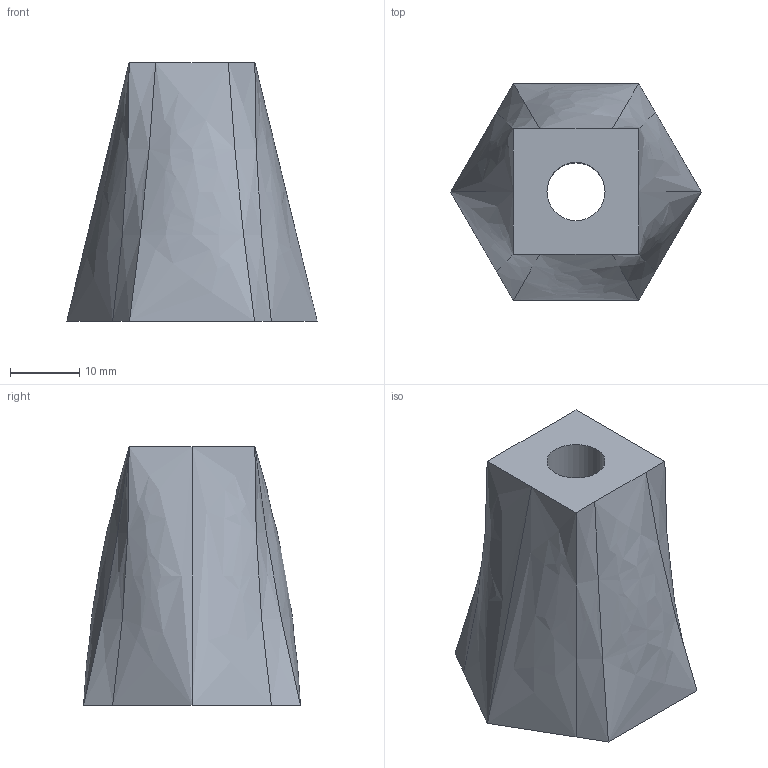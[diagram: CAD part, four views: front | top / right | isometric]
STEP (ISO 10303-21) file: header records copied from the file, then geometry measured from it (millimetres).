
FILE_DESCRIPTION(('Mechanical CAD reference from nasji.com'),'2;1');
FILE_NAME('NASJI.step','',(''),(''),'','NASJI distribution','');
FILE_SCHEMA(('AUTOMOTIVE_DESIGN { 1 0 10303 214 1 1 1 1 }'));
Length unit declared in the file: millimetre
Products named in the file (1): Open CASCADE STEP translator 7.8 143
Bounding box: 36.27 x 31.41 x 37.4 mm (x, y, z)
Volume: 19811.6 mm3; surface area: 5358 mm2
Topology: 1 solids, 1 shells, 13 faces, 33 edges, 22 vertices
Faces by surface type: bspline 10, plane 2, cylinder 1
Full cylindrical faces by diameter (mm): 8.4 x1
Entity records: 1238 total; most frequent: CARTESIAN_POINT 677, ORIENTED_EDGE 66, PCURVE 66, DEFINITIONAL_REPRESENTATION 66, DIRECTION 57, B_SPLINE_CURVE_WITH_KNOTS 50, LINE 45, VECTOR 45
